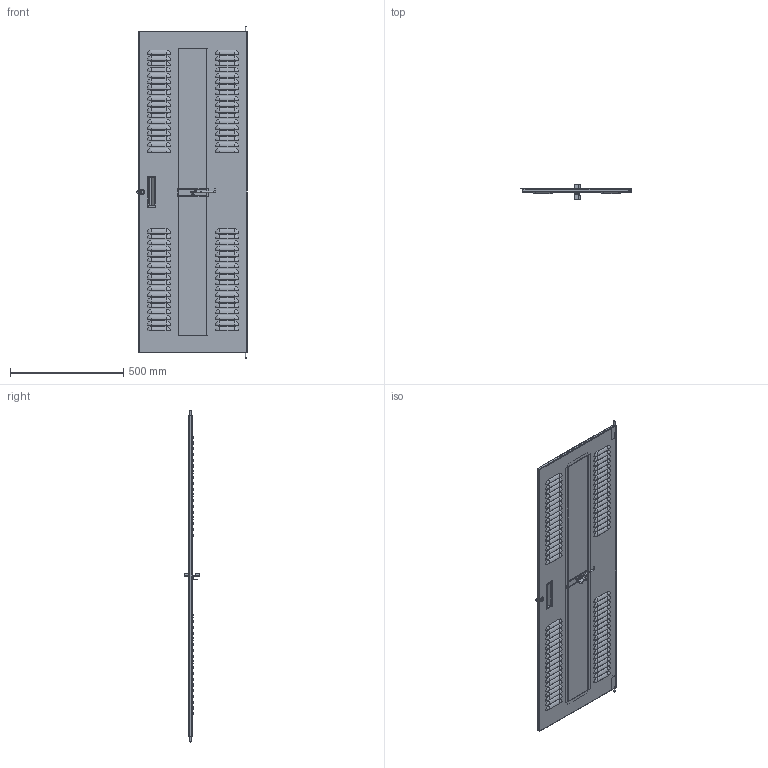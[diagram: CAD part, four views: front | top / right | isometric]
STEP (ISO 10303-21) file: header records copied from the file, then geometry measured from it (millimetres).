
FILE_DESCRIPTION( ( 'Unknown' ), '1' );
FILE_NAME( 'Q:/REFK/DOORS/LOUVERED/WEB DRAWINGS/STEP/RSDL19056.stp', 'Unknown', ( 'Unknown' ), ( 'Unknown' ), 'XStep 1.0', 'Unknown', ' ' );
FILE_SCHEMA( ( 'CONFIG_CONTROL_DESIGN' ) );
Length unit declared in the file: millimetre
Products named in the file (8): Assem1; Assem2; 1; 2; 3; 4; 5; 6
Bounding box: 486.46 x 69.85 x 1463.95 mm (x, y, z)
Volume: 4197687.1 mm3; surface area: 6049722.8 mm2
Topology: 18 solids, 18 shells, 2420 faces, 7321 edges, 4090 vertices
Faces by surface type: plane 873, sphere 864, cylinder 626, bspline 40, cone 11, torus 6
Full cylindrical faces by diameter (mm): 5.182 x3, 6.35 x9, 8.382 x2, 13.868 x2, 13.97 x2, 21.996 x2
Entity records: 26725 total; most frequent: CARTESIAN_POINT 4970, DIRECTION 4873, ORIENTED_EDGE 4304, EDGE_CURVE 2152, AXIS2_PLACEMENT_3D 1944, VERTEX_POINT 1369, CIRCLE 1117, EDGE_LOOP 987
